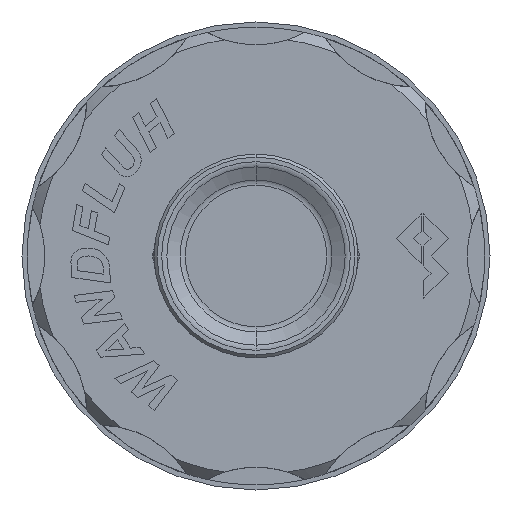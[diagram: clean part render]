
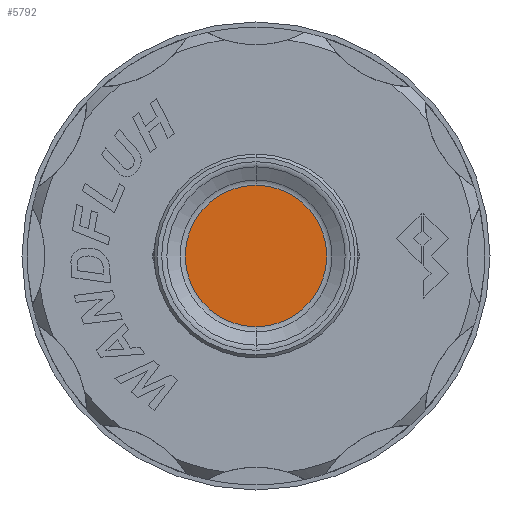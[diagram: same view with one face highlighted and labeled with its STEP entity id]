
A CAD part, left-side view. The second image highlights one B-rep face of the part: STEP entity #5792.
In plain terms, the highlighted planar face has unit normal (-1, 0, 0).
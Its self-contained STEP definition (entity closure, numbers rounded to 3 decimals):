
#48 = EDGE_LOOP ( 'NONE', ( #9698, #3562 ) ) ;
#822 = VERTEX_POINT ( 'NONE', #3702 ) ;
#1082 = PLANE ( 'NONE',  #3182 ) ;
#1851 = CARTESIAN_POINT ( 'NONE',  ( -63.9, 0., -6.8 ) ) ;
#2107 = CIRCLE ( 'NONE', #4952, 6.8 ) ;
#2126 = CARTESIAN_POINT ( 'NONE',  ( -63.9, 0., 0. ) ) ;
#2153 = FACE_OUTER_BOUND ( 'NONE', #48, .T. ) ;
#2893 = CARTESIAN_POINT ( 'NONE',  ( -63.9, 6.8, 0. ) ) ;
#3182 = AXIS2_PLACEMENT_3D ( 'NONE', #2893, #6674, #9980 ) ;
#3248 = VERTEX_POINT ( 'NONE', #1851 ) ;
#3562 = ORIENTED_EDGE ( 'NONE', *, *, #4695, .F. ) ;
#3702 = CARTESIAN_POINT ( 'NONE',  ( -63.9, 0., 6.8 ) ) ;
#3765 = EDGE_CURVE ( 'NONE', #3248, #822, #10261, .T. ) ;
#4220 = DIRECTION ( 'NONE',  ( 0., 0., -1. ) ) ;
#4230 = AXIS2_PLACEMENT_3D ( 'NONE', #2126, #5700, #4220 ) ;
#4695 = EDGE_CURVE ( 'NONE', #822, #3248, #2107, .T. ) ;
#4952 = AXIS2_PLACEMENT_3D ( 'NONE', #7689, #7691, #6602 ) ;
#5700 = DIRECTION ( 'NONE',  ( 1., 0., 0. ) ) ;
#5792 = ADVANCED_FACE ( 'NONE', ( #2153 ), #1082, .F. ) ;
#6602 = DIRECTION ( 'NONE',  ( 0., 0., -1. ) ) ;
#6674 = DIRECTION ( 'NONE',  ( 1., 0., 0. ) ) ;
#7689 = CARTESIAN_POINT ( 'NONE',  ( -63.9, 0., 0. ) ) ;
#7691 = DIRECTION ( 'NONE',  ( 1., 0., 0. ) ) ;
#9698 = ORIENTED_EDGE ( 'NONE', *, *, #3765, .F. ) ;
#9980 = DIRECTION ( 'NONE',  ( 0., 0., -1. ) ) ;
#10261 = CIRCLE ( 'NONE', #4230, 6.8 ) ;
